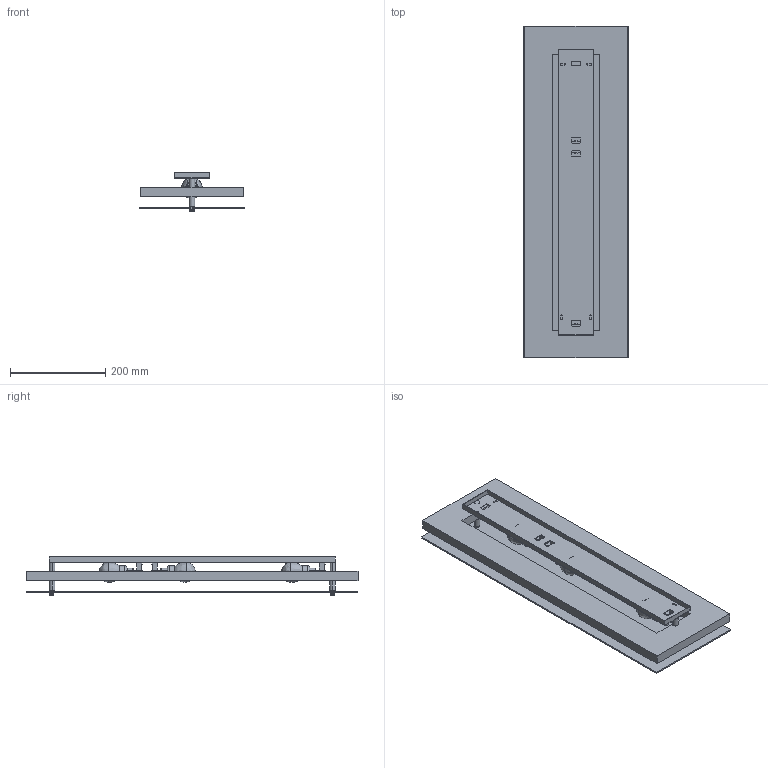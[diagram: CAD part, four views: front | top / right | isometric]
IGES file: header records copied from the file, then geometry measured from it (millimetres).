
Start section: SolidWorks IGES file using analytic representation for surfaces
Global section: file name: E:\3D lampy\Kyoto\Kyoto_3415\Kyoto_3415.IGS; native system: SolidWorks 2016; preprocessor: SolidWorks 2016; author: Asia; date: 170609.113653; units: millimetre
Bounding box: 220 x 696.25 x 79.94 mm (x, y, z)
Surface area: 735897.1 mm2 (no closed solid volume)
Topology: 0 solids, 0 shells, 704 faces, 9865 edges, 9857 vertices
Faces by surface type: bspline 359, revolution 345
